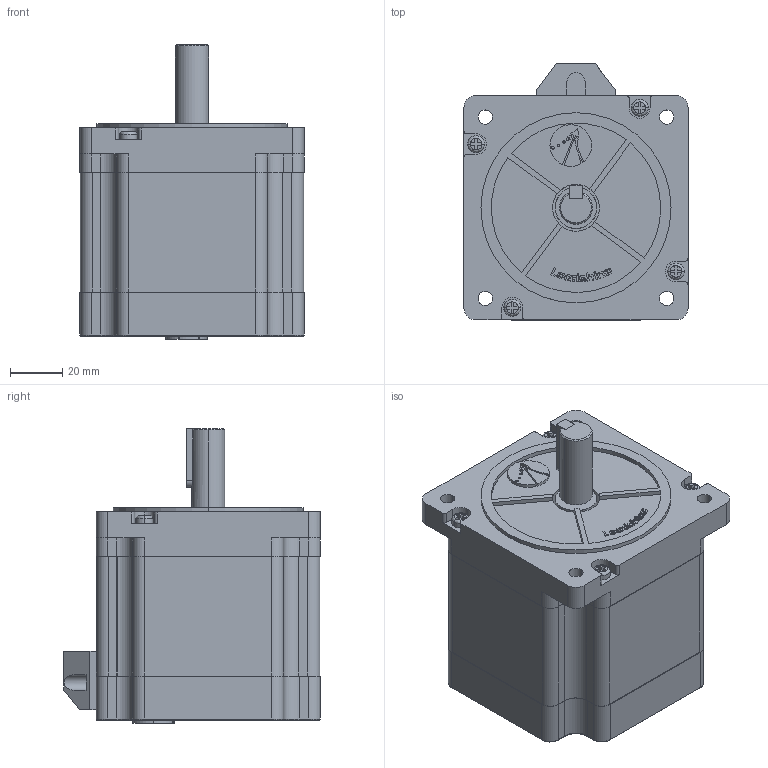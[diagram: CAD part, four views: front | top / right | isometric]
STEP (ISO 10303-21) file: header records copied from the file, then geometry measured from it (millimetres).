
FILE_DESCRIPTION (( 'STEP AP203' ), '1' );
FILE_NAME ('86CM45_3D.STEP', '2019-12-26T01:16:11', ( 'hwtest' ), ( 'Microsoft' ), 'SwSTEP 2.0', 'SolidWorks 2014', '' );
FILE_SCHEMA (( 'CONFIG_CONTROL_DESIGN' ));
Length unit declared in the file: millimetre
Products named in the file (1): 86CM45_3D
Bounding box: 86 x 98.35 x 113.2 mm (x, y, z)
Volume: 544146.6 mm3; surface area: 47507.5 mm2
Topology: 24 solids, 24 shells, 747 faces, 1969 edges, 1285 vertices
Faces by surface type: plane 397, bspline 186, cylinder 159, cone 5
Entity records: 28082 total; most frequent: CARTESIAN_POINT 10549, ORIENTED_EDGE 3932, DIRECTION 3078, EDGE_CURVE 1966, VERTEX_POINT 1284, VECTOR 1260, LINE 1260, AXIS2_PLACEMENT_3D 909
